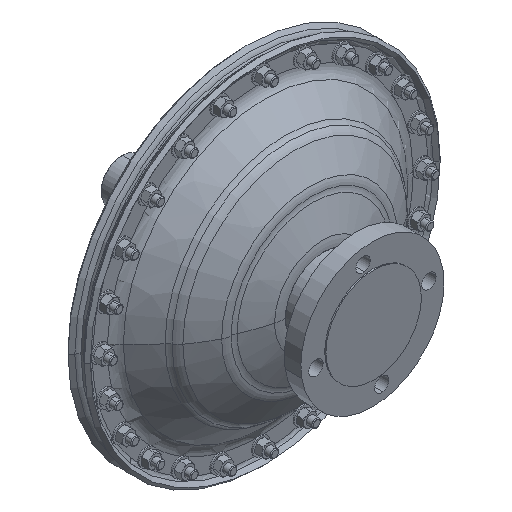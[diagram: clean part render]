
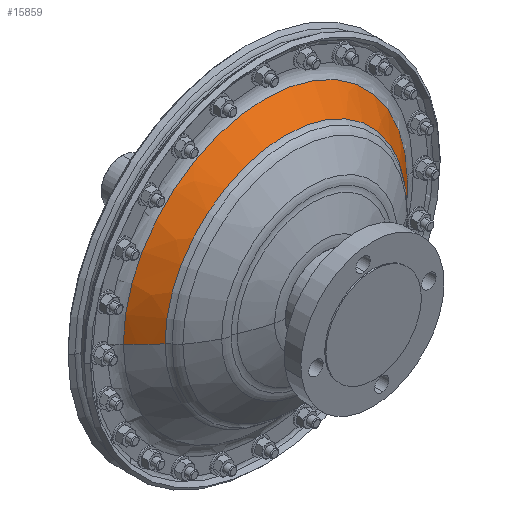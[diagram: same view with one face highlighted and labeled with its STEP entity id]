
A CAD part, isometric view. The second image highlights one B-rep face of the part: STEP entity #15859.
In plain terms, the highlighted spherical face has radius 253.4 mm.
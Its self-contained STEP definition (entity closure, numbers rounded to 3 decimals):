
#291 = CARTESIAN_POINT ( 'NONE',  ( 0., 156.718, 0. ) ) ;
#8168 = VERTEX_POINT ( 'NONE', #28812 ) ;
#8428 = DIRECTION ( 'NONE',  ( 1., 0., 0. ) ) ;
#9099 = AXIS2_PLACEMENT_3D ( 'NONE', #43494, #11911, #8428 ) ;
#11293 = DIRECTION ( 'NONE',  ( 0., 1., 0. ) ) ;
#11399 = EDGE_CURVE ( 'NONE', #24315, #8168, #15648, .T. ) ;
#11911 = DIRECTION ( 'NONE',  ( 0., 0., 1. ) ) ;
#12913 = VERTEX_POINT ( 'NONE', #13531 ) ;
#13531 = CARTESIAN_POINT ( 'NONE',  ( -188.803, -12.294, 0. ) ) ;
#15579 = DIRECTION ( 'NONE',  ( -1., 0., 0. ) ) ;
#15648 = CIRCLE ( 'NONE', #20090, 160.439 ) ;
#15859 = ADVANCED_FACE ( 'NONE', ( #32484 ), #37369, .T. ) ;
#15934 = CARTESIAN_POINT ( 'NONE',  ( 0., -39.422, 0. ) ) ;
#16411 = ORIENTED_EDGE ( 'NONE', *, *, #11399, .T. ) ;
#16427 = AXIS2_PLACEMENT_3D ( 'NONE', #19029, #40165, #36687 ) ;
#16877 = EDGE_CURVE ( 'NONE', #8168, #26652, #43179, .T. ) ;
#18129 = DIRECTION ( 'NONE',  ( 0., 1., 0. ) ) ;
#19029 = CARTESIAN_POINT ( 'NONE',  ( 0., 156.718, 0. ) ) ;
#19763 = CIRCLE ( 'NONE', #21139, 188.803 ) ;
#20090 = AXIS2_PLACEMENT_3D ( 'NONE', #15934, #11293, #25467 ) ;
#20323 = ORIENTED_EDGE ( 'NONE', *, *, #32289, .F. ) ;
#21139 = AXIS2_PLACEMENT_3D ( 'NONE', #40719, #18129, #15579 ) ;
#22385 = ORIENTED_EDGE ( 'NONE', *, *, #16877, .T. ) ;
#24315 = VERTEX_POINT ( 'NONE', #25623 ) ;
#25467 = DIRECTION ( 'NONE',  ( -1., 0., 0. ) ) ;
#25623 = CARTESIAN_POINT ( 'NONE',  ( -160.439, -39.422, 0. ) ) ;
#26652 = VERTEX_POINT ( 'NONE', #28797 ) ;
#28177 = DIRECTION ( 'NONE',  ( -1., 0., 0. ) ) ;
#28797 = CARTESIAN_POINT ( 'NONE',  ( 188.803, -12.294, 0. ) ) ;
#28812 = CARTESIAN_POINT ( 'NONE',  ( 160.439, -39.422, 0. ) ) ;
#31409 = EDGE_LOOP ( 'NONE', ( #36135, #16411, #22385, #20323 ) ) ;
#32289 = EDGE_CURVE ( 'NONE', #12913, #26652, #19763, .T. ) ;
#32484 = FACE_OUTER_BOUND ( 'NONE', #31409, .T. ) ;
#35802 = DIRECTION ( 'NONE',  ( 0., 0., -1. ) ) ;
#36135 = ORIENTED_EDGE ( 'NONE', *, *, #42939, .F. ) ;
#36687 = DIRECTION ( 'NONE',  ( 1., 0., 0. ) ) ;
#37176 = CIRCLE ( 'NONE', #43105, 253.4 ) ;
#37369 = SPHERICAL_SURFACE ( 'NONE', #16427, 253.4 ) ;
#40165 = DIRECTION ( 'NONE',  ( 0., 0., -1. ) ) ;
#40719 = CARTESIAN_POINT ( 'NONE',  ( 0., -12.294, 0. ) ) ;
#42939 = EDGE_CURVE ( 'NONE', #24315, #12913, #37176, .T. ) ;
#43105 = AXIS2_PLACEMENT_3D ( 'NONE', #291, #35802, #28177 ) ;
#43179 = CIRCLE ( 'NONE', #9099, 253.4 ) ;
#43494 = CARTESIAN_POINT ( 'NONE',  ( 0., 156.718, 0. ) ) ;
